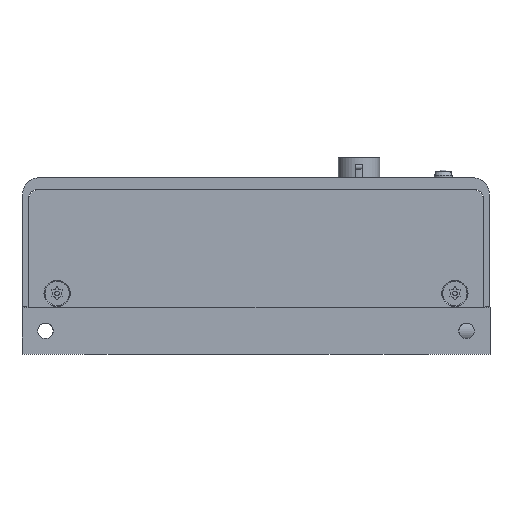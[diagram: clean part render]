
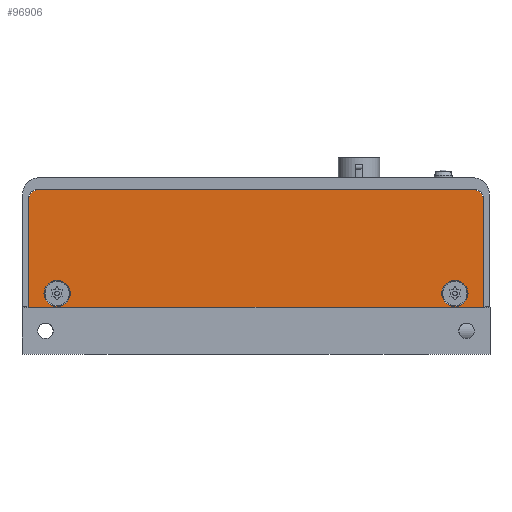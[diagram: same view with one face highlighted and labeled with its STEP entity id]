
A CAD part, left-side view. The second image highlights one B-rep face of the part: STEP entity #96906.
In plain terms, the highlighted planar face has unit normal (-1, 0, 0).
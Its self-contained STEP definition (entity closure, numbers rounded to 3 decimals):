
#1624 = VECTOR ( 'NONE', #22009, 1000. ) ;
#2222 = ORIENTED_EDGE ( 'NONE', *, *, #131761, .T. ) ;
#2641 = CARTESIAN_POINT ( 'NONE',  ( -39.79, -42.5, 13. ) ) ;
#3658 = DIRECTION ( 'NONE',  ( -1., 0., 0. ) ) ;
#7597 = CARTESIAN_POINT ( 'NONE',  ( -39.79, -48.6, 10.1 ) ) ;
#9598 = CARTESIAN_POINT ( 'NONE',  ( -39.79, -48.6, 33. ) ) ;
#10863 = CARTESIAN_POINT ( 'NONE',  ( -39.79, 46.4, 35.2 ) ) ;
#11218 = FACE_BOUND ( 'NONE', #33297, .T. ) ;
#13861 = EDGE_LOOP ( 'NONE', ( #67029 ) ) ;
#16547 = CARTESIAN_POINT ( 'NONE',  ( -39.79, 42.5, 13. ) ) ;
#18016 = ORIENTED_EDGE ( 'NONE', *, *, #124885, .T. ) ;
#18947 = EDGE_LOOP ( 'NONE', ( #127606, #79977, #43592, #2222, #135171, #18016 ) ) ;
#22009 = DIRECTION ( 'NONE',  ( 0., -1., 0. ) ) ;
#22765 = PLANE ( 'NONE',  #85623 ) ;
#24172 = FACE_BOUND ( 'NONE', #13861, .T. ) ;
#24529 = CIRCLE ( 'NONE', #105178, 2.8 ) ;
#24618 = DIRECTION ( 'NONE',  ( 0., 1., 0. ) ) ;
#24691 = DIRECTION ( 'NONE',  ( -1., 0., 0. ) ) ;
#28798 = DIRECTION ( 'NONE',  ( 0., -1., 0. ) ) ;
#29958 = AXIS2_PLACEMENT_3D ( 'NONE', #68011, #24691, #28798 ) ;
#33297 = EDGE_LOOP ( 'NONE', ( #53389 ) ) ;
#35827 = DIRECTION ( 'NONE',  ( 0., -1., 0. ) ) ;
#36597 = CARTESIAN_POINT ( 'NONE',  ( -39.79, 48.6, 10.1 ) ) ;
#36674 = EDGE_CURVE ( 'NONE', #73966, #67553, #107340, .T. ) ;
#43205 = CARTESIAN_POINT ( 'NONE',  ( -39.79, 48.6, 33. ) ) ;
#43592 = ORIENTED_EDGE ( 'NONE', *, *, #81867, .T. ) ;
#50770 = LINE ( 'NONE', #138086, #94416 ) ;
#51875 = DIRECTION ( 'NONE',  ( 0., -1., 0. ) ) ;
#52496 = CARTESIAN_POINT ( 'NONE',  ( -39.79, 48.6, 10.1 ) ) ;
#53389 = ORIENTED_EDGE ( 'NONE', *, *, #110495, .T. ) ;
#55220 = DIRECTION ( 'NONE',  ( 0., -1., 0. ) ) ;
#56765 = DIRECTION ( 'NONE',  ( 1., 0., 0. ) ) ;
#57123 = EDGE_CURVE ( 'NONE', #61537, #88795, #50770, .T. ) ;
#57288 = EDGE_CURVE ( 'NONE', #88795, #131938, #117509, .T. ) ;
#61537 = VERTEX_POINT ( 'NONE', #7597 ) ;
#67029 = ORIENTED_EDGE ( 'NONE', *, *, #142109, .T. ) ;
#67553 = VERTEX_POINT ( 'NONE', #36597 ) ;
#68011 = CARTESIAN_POINT ( 'NONE',  ( -39.79, -46.4, 33. ) ) ;
#68980 = LINE ( 'NONE', #102837, #89040 ) ;
#69748 = CIRCLE ( 'NONE', #120400, 2.8 ) ;
#72432 = DIRECTION ( 'NONE',  ( 0., 0., 1. ) ) ;
#73966 = VERTEX_POINT ( 'NONE', #43205 ) ;
#77007 = VERTEX_POINT ( 'NONE', #121015 ) ;
#79446 = CARTESIAN_POINT ( 'NONE',  ( -39.79, 46.4, 33. ) ) ;
#79977 = ORIENTED_EDGE ( 'NONE', *, *, #57288, .T. ) ;
#81867 = EDGE_CURVE ( 'NONE', #131938, #138032, #68980, .T. ) ;
#85623 = AXIS2_PLACEMENT_3D ( 'NONE', #110074, #86983, #55220 ) ;
#86983 = DIRECTION ( 'NONE',  ( -1., 0., 0. ) ) ;
#87676 = FACE_OUTER_BOUND ( 'NONE', #18947, .T. ) ;
#88795 = VERTEX_POINT ( 'NONE', #9598 ) ;
#89040 = VECTOR ( 'NONE', #114379, 1000. ) ;
#91686 = AXIS2_PLACEMENT_3D ( 'NONE', #79446, #3658, #24618 ) ;
#93493 = VERTEX_POINT ( 'NONE', #104323 ) ;
#94416 = VECTOR ( 'NONE', #72432, 1000. ) ;
#96906 = ADVANCED_FACE ( 'NONE', ( #24172, #11218, #87676 ), #22765, .T. ) ;
#100205 = CARTESIAN_POINT ( 'NONE',  ( -39.79, -46.4, 35.2 ) ) ;
#102837 = CARTESIAN_POINT ( 'NONE',  ( -39.79, -46.4, 35.2 ) ) ;
#104323 = CARTESIAN_POINT ( 'NONE',  ( -39.79, -45.3, 13. ) ) ;
#105178 = AXIS2_PLACEMENT_3D ( 'NONE', #2641, #56765, #35827 ) ;
#107340 = LINE ( 'NONE', #52496, #142623 ) ;
#110074 = CARTESIAN_POINT ( 'NONE',  ( -39.79, -46.4, 33. ) ) ;
#110495 = EDGE_CURVE ( 'NONE', #77007, #77007, #69748, .T. ) ;
#114379 = DIRECTION ( 'NONE',  ( 0., 1., 0. ) ) ;
#116846 = DIRECTION ( 'NONE',  ( 1., 0., 0. ) ) ;
#117509 = CIRCLE ( 'NONE', #29958, 2.2 ) ;
#120400 = AXIS2_PLACEMENT_3D ( 'NONE', #16547, #116846, #51875 ) ;
#121015 = CARTESIAN_POINT ( 'NONE',  ( -39.79, 39.7, 13. ) ) ;
#121575 = CARTESIAN_POINT ( 'NONE',  ( -39.79, -48.6, 10.1 ) ) ;
#121703 = CIRCLE ( 'NONE', #91686, 2.2 ) ;
#124885 = EDGE_CURVE ( 'NONE', #67553, #61537, #133825, .T. ) ;
#127606 = ORIENTED_EDGE ( 'NONE', *, *, #57123, .T. ) ;
#131761 = EDGE_CURVE ( 'NONE', #138032, #73966, #121703, .T. ) ;
#131938 = VERTEX_POINT ( 'NONE', #100205 ) ;
#133825 = LINE ( 'NONE', #121575, #1624 ) ;
#135171 = ORIENTED_EDGE ( 'NONE', *, *, #36674, .T. ) ;
#138032 = VERTEX_POINT ( 'NONE', #10863 ) ;
#138086 = CARTESIAN_POINT ( 'NONE',  ( -39.79, -48.6, 10.1 ) ) ;
#140538 = DIRECTION ( 'NONE',  ( 0., 0., -1. ) ) ;
#142109 = EDGE_CURVE ( 'NONE', #93493, #93493, #24529, .T. ) ;
#142623 = VECTOR ( 'NONE', #140538, 1000. ) ;
